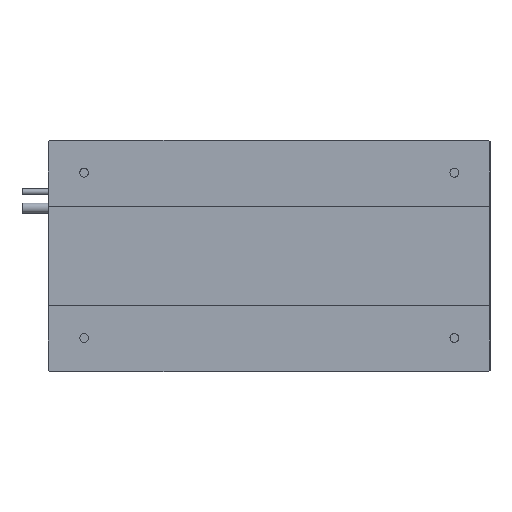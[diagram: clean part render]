
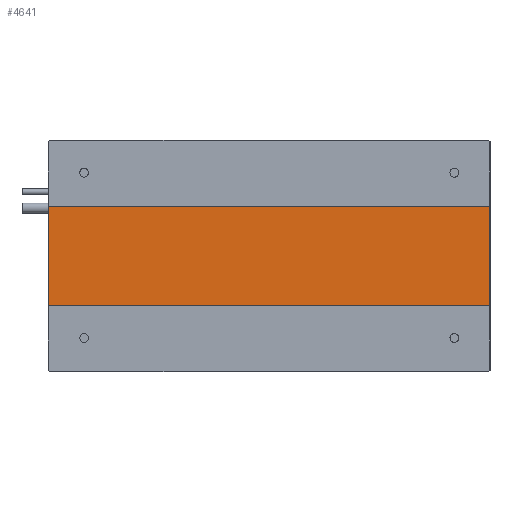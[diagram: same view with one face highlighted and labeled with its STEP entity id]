
A CAD part, front view. The second image highlights one B-rep face of the part: STEP entity #4641.
In plain terms, the highlighted planar face has unit normal (0, -1, 0).
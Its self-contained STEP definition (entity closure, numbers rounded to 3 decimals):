
#157 = EDGE_CURVE ( 'NONE', #6370, #5721, #2405, .T. ) ;
#232 = CARTESIAN_POINT ( 'NONE',  ( 334., 1., -37.5 ) ) ;
#392 = EDGE_CURVE ( 'NONE', #6675, #6967, #6856, .T. ) ;
#431 = DIRECTION ( 'NONE',  ( 0., 0., 1. ) ) ;
#504 = CARTESIAN_POINT ( 'NONE',  ( 334., 1., -37.5 ) ) ;
#522 = EDGE_CURVE ( 'NONE', #5721, #6675, #5808, .T. ) ;
#524 = EDGE_CURVE ( 'NONE', #6967, #6370, #4395, .T. ) ;
#556 = AXIS2_PLACEMENT_3D ( 'NONE', #2017, #2522, #6425 ) ;
#1087 = FACE_OUTER_BOUND ( 'NONE', #6325, .T. ) ;
#1390 = CARTESIAN_POINT ( 'NONE',  ( 334., 1., 37.5 ) ) ;
#1449 = PLANE ( 'NONE',  #556 ) ;
#2017 = CARTESIAN_POINT ( 'NONE',  ( 0., 1., 37.5 ) ) ;
#2405 = LINE ( 'NONE', #504, #3538 ) ;
#2451 = ORIENTED_EDGE ( 'NONE', *, *, #522, .T. ) ;
#2522 = DIRECTION ( 'NONE',  ( 0., 1., 0. ) ) ;
#2563 = VECTOR ( 'NONE', #6301, 1000. ) ;
#3154 = ORIENTED_EDGE ( 'NONE', *, *, #524, .T. ) ;
#3538 = VECTOR ( 'NONE', #431, 1000. ) ;
#4213 = CARTESIAN_POINT ( 'NONE',  ( 0., 1., -37.5 ) ) ;
#4292 = VECTOR ( 'NONE', #4953, 1000. ) ;
#4364 = ORIENTED_EDGE ( 'NONE', *, *, #392, .T. ) ;
#4395 = LINE ( 'NONE', #4715, #5548 ) ;
#4641 = ADVANCED_FACE ( 'NONE', ( #1087 ), #1449, .F. ) ;
#4678 = DIRECTION ( 'NONE',  ( 1., 0., 0. ) ) ;
#4715 = CARTESIAN_POINT ( 'NONE',  ( 0., 1., -37.5 ) ) ;
#4926 = CARTESIAN_POINT ( 'NONE',  ( 0., 1., 37.5 ) ) ;
#4953 = DIRECTION ( 'NONE',  ( -1., 0., 0. ) ) ;
#5548 = VECTOR ( 'NONE', #4678, 1000. ) ;
#5721 = VERTEX_POINT ( 'NONE', #1390 ) ;
#5733 = ORIENTED_EDGE ( 'NONE', *, *, #157, .T. ) ;
#5808 = LINE ( 'NONE', #4926, #4292 ) ;
#6257 = CARTESIAN_POINT ( 'NONE',  ( 0., 1., -37.5 ) ) ;
#6301 = DIRECTION ( 'NONE',  ( 0., 0., -1. ) ) ;
#6325 = EDGE_LOOP ( 'NONE', ( #4364, #3154, #5733, #2451 ) ) ;
#6370 = VERTEX_POINT ( 'NONE', #232 ) ;
#6425 = DIRECTION ( 'NONE',  ( 0., 0., 1. ) ) ;
#6433 = CARTESIAN_POINT ( 'NONE',  ( 0., 1., 37.5 ) ) ;
#6675 = VERTEX_POINT ( 'NONE', #6433 ) ;
#6856 = LINE ( 'NONE', #6257, #2563 ) ;
#6967 = VERTEX_POINT ( 'NONE', #4213 ) ;
